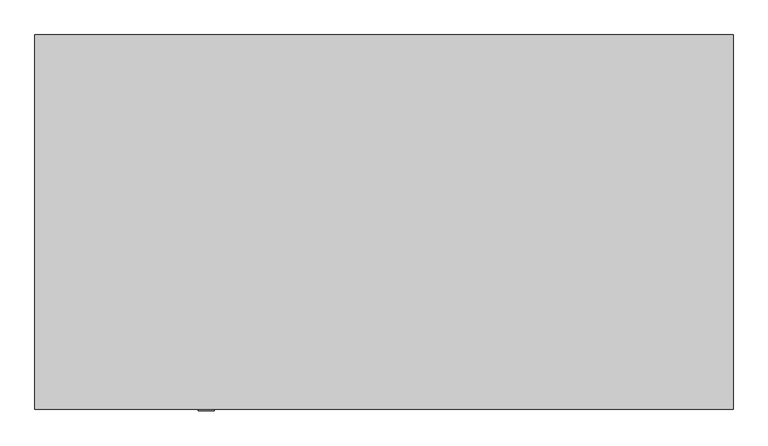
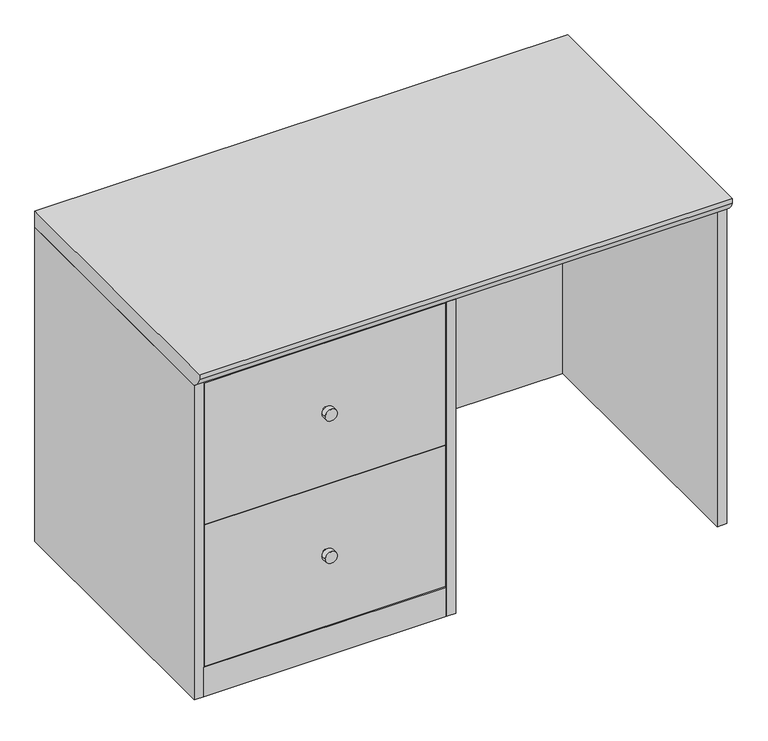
"""IFC4 building model written with IfcOpenShell, lengths in millimetres: furniture geometry, 桌子_009 : SB 6165 03 W1900*D590*H720."""

from ifc_helpers import new_model, si_unit, point, frame, frame_2d, origin, origin_with_axes, place, context, project, spatial, polyline, circle_curve, trimmed, segment, composite_curve, outline, extrude, source, transform, mapped, element, save


def furniture_719fa588(model_context):
    return source(origin(), model_context, "Body", "SweptSolid", [
        extrude(outline(composite_curve([segment(trimmed(circle_curve(frame_2d((540.9994513, -280.0)), 4.1754864), [point((540.9994513, -284.1754864))], [point((540.9994513, -275.8245136))], False, "CARTESIAN"), True, "CONTINUOUS"), segment(trimmed(circle_curve(frame_2d((540.9994513, -280.0)), 4.1754864), [point((540.9994513, -275.8245136))], [point((540.9994513, -284.1754864))], False, "CARTESIAN"), True, "CONTINUOUS")], self_intersect=False)), frame((0.0, -440.9240236, 0.0), z_axis=(0.0, 1.0, 0.0), x_axis=(0.0, 0.0, 1.0)), (0.0, 0.0, 1.0), 10.9240236),
        extrude(outline(composite_curve([segment(trimmed(circle_curve(frame_2d((540.9994513, -280.0)), 12.6783927), [point((540.9994513, -292.6783927))], [point((540.9994513, -267.3216073))], False, "CARTESIAN"), True, "CONTINUOUS"), segment(trimmed(circle_curve(frame_2d((540.9994513, -280.0)), 12.6783927), [point((540.9994513, -267.3216073))], [point((540.9994513, -292.6783927))], False, "CARTESIAN"), True, "CONTINUOUS")], self_intersect=False)), frame((0.0, -452.2452395, 0.0), z_axis=(0.0, 1.0, 0.0), x_axis=(0.0, 0.0, 1.0)), (0.0, 0.0, 1.0), 11.3212159),
        extrude(outline(composite_curve([segment(trimmed(circle_curve(frame_2d((229.9994513, -280.0)), 4.1754864), [point((229.9994513, -284.1754864))], [point((229.9994513, -275.8245136))], False, "CARTESIAN"), True, "CONTINUOUS"), segment(trimmed(circle_curve(frame_2d((229.9994513, -280.0)), 4.1754864), [point((229.9994513, -275.8245136))], [point((229.9994513, -284.1754864))], False, "CARTESIAN"), True, "CONTINUOUS")], self_intersect=False)), frame((0.0, -440.9240236, 0.0), z_axis=(0.0, 1.0, 0.0), x_axis=(0.0, 0.0, 1.0)), (0.0, 0.0, 1.0), 10.9240236),
        extrude(outline(composite_curve([segment(trimmed(circle_curve(frame_2d((229.9994513, -280.0)), 12.6783927), [point((229.9994513, -292.6783927))], [point((229.9994513, -267.3216073))], False, "CARTESIAN"), True, "CONTINUOUS"), segment(trimmed(circle_curve(frame_2d((229.9994513, -280.0)), 12.6783927), [point((229.9994513, -267.3216073))], [point((229.9994513, -292.6783927))], False, "CARTESIAN"), True, "CONTINUOUS")], self_intersect=False)), frame((0.0, -452.2452395, 0.0), z_axis=(0.0, 1.0, 0.0), x_axis=(0.0, 0.0, 1.0)), (0.0, 0.0, 1.0), 11.3212159),
        extrude(outline(composite_curve([segment(polyline([(-450.0, 722.0), (140.0, 722.0), (140.0, 687.0), (-430.0, 687.0)]), True, "CONTINUOUS"), segment(trimmed(circle_curve(frame_2d((-393.127737, 736.9978104)), 62.1236254), [point((-430.0, 687.0))], [point((-450.0, 712.0))], False, "CARTESIAN"), True, "CONTINUOUS"), segment(polyline([(-450.0, 712.0), (-450.0, 722.0)]), True, "CONTINUOUS")], self_intersect=False)), frame((-550.0, 0.0, 0.0), z_axis=(1.0, 0.0, 0.0), x_axis=(0.0, 1.0, 0.0)), (0.0, 0.0, 1.0), 1100.0),
        extrude(outline(polyline([(-32.0, -430.0), (-528.0, -430.0), (-528.0, -412.6794919), (-32.0, -412.6794919), (-32.0, -430.0)])), frame((0.0, 0.0, 375.0), z_axis=(0.0, 0.0, 1.0), x_axis=(1.0, 0.0, 0.0)), (0.0, 0.0, 1.0), 310.0),
        extrude(outline(polyline([(-32.0, -430.0), (-528.0, -430.0), (-528.0, -412.6794919), (-32.0, -412.6794919), (-32.0, -430.0)])), frame((0.0, 0.0, 66.0), z_axis=(0.0, 0.0, 1.0), x_axis=(1.0, 0.0, 0.0)), (0.0, 0.0, 1.0), 308.0),
        extrude(outline(polyline([(150.0, 140.0), (530.0, 140.0), (530.0, 123.0), (150.0, 123.0), (150.0, 140.0)])), origin_with_axes(), (0.0, 0.0, 1.0), 687.0),
        extrude(outline(polyline([(-30.0, -430.0), (-530.0, -430.0), (-530.0, -412.6794919), (-30.0, -412.6794919), (-30.0, -430.0)])), origin_with_axes(), (0.0, 0.0, 1.0), 64.0),
        extrude(outline(polyline([(-530.0, 130.0), (-30.0, 130.0), (-30.0, 123.0), (-530.0, 123.0), (-530.0, 130.0)])), origin_with_axes(), (0.0, 0.0, 1.0), 46.0),
        extrude(outline(polyline([(-30.0, -412.6794919), (-530.0, -412.6794919), (-530.0, 140.0), (-30.0, 140.0), (-30.0, -412.6794919)])), frame((0.0, 0.0, 46.0), z_axis=(0.0, 0.0, 1.0), x_axis=(1.0, 0.0, 0.0)), (0.0, 0.0, 1.0), 16.0),
        extrude(outline(polyline([(-30.0, 130.0), (-30.0, 123.0), (-530.0, 123.0), (-530.0, 130.0), (-30.0, 130.0)])), frame((0.0, 0.0, 62.0), z_axis=(0.0, 0.0, 1.0), x_axis=(1.0, 0.0, 0.0)), (0.0, 0.0, 1.0), 625.0),
        extrude(outline(polyline([(-10.0, 140.0), (-10.0, -430.0), (-30.0, -430.0), (-30.0, 140.0), (-10.0, 140.0)])), origin_with_axes(), (0.0, 0.0, 1.0), 687.0),
        extrude(outline(polyline([(530.0, 140.0), (550.0, 140.0), (550.0, -430.0), (530.0, -430.0), (530.0, 140.0)])), origin_with_axes(), (0.0, 0.0, 1.0), 687.0),
        extrude(outline(polyline([(-530.0, 140.0), (-530.0, -430.0), (-550.0, -430.0), (-550.0, 140.0), (-530.0, 140.0)])), origin_with_axes(), (0.0, 0.0, 1.0), 687.0),
    ])


if __name__ == "__main__":
    model = new_model("IFC4")
    model_context = context("Model", 3, world=origin())
    ifc_project = project(units=[si_unit("LENGTHUNIT", "METRE", prefix="MILLI")], contexts=[model_context])
    site = spatial("IfcSite", under=ifc_project)
    building = spatial("IfcBuilding", under=site)
    placement = place(None, origin())
    furniture_shape = furniture_719fa588(model_context)
    element("IfcFurniture", 1, ObjectType="桌子_009 : SB 6165 03 W1900*D590*H720", at=placement, inside=building, context=model_context, shape_type="MappedRepresentation", body=[
        mapped(furniture_shape, transform((0.0, 0.0, 0.0), x_axis=(1.0, 0.0, 0.0), y_axis=(0.0, 1.0, 0.0), z_axis=(0.0, 0.0, 1.0))),
    ])
    save(model, "model.ifc")
